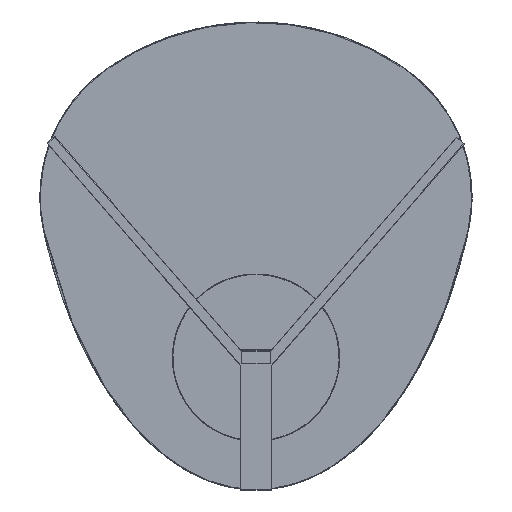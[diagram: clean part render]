
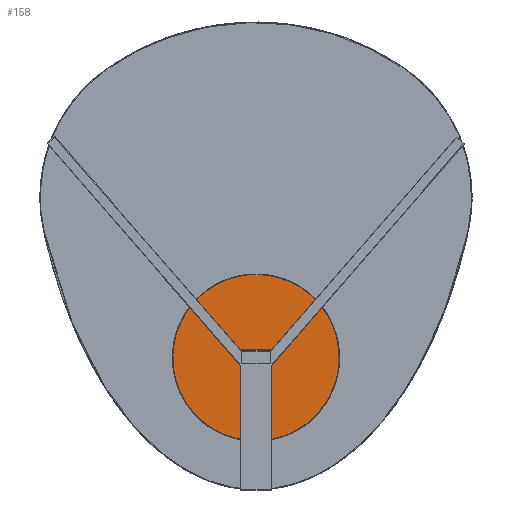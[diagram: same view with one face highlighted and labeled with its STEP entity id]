
A CAD part, front view. The second image highlights one B-rep face of the part: STEP entity #158.
In plain terms, the highlighted planar face has unit normal (0, -1, 0).
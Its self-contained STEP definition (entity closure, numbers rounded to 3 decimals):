
#158=ADVANCED_FACE('',(#284),#1715,.T.);
#284=FACE_OUTER_BOUND('',#411,.T.);
#411=EDGE_LOOP('',(#910,#911));
#910=ORIENTED_EDGE('',*,*,#1216,.F.);
#911=ORIENTED_EDGE('',*,*,#1225,.F.);
#1216=EDGE_CURVE('',#1670,#1671,#1502,.T.);
#1225=EDGE_CURVE('',#1671,#1670,#1509,.T.);
#1502=(
BOUNDED_CURVE()
B_SPLINE_CURVE(2,(#5955,#5956,#5957,#5958,#5959),.UNSPECIFIED.,.F.,.F.)
B_SPLINE_CURVE_WITH_KNOTS((3,2,3),(-249.757,-124.878,
0.),.UNSPECIFIED.)
CURVE()
GEOMETRIC_REPRESENTATION_ITEM()
RATIONAL_B_SPLINE_CURVE((1.,0.707,1.,0.707,1.))
REPRESENTATION_ITEM('')
);
#1509=(
BOUNDED_CURVE()
B_SPLINE_CURVE(2,(#5990,#5991,#5992,#5993,#5994),.UNSPECIFIED.,.F.,.F.)
B_SPLINE_CURVE_WITH_KNOTS((3,2,3),(-249.757,-124.878,
0.),.UNSPECIFIED.)
CURVE()
GEOMETRIC_REPRESENTATION_ITEM()
RATIONAL_B_SPLINE_CURVE((1.,0.707,1.,0.707,1.))
REPRESENTATION_ITEM('')
);
#1670=VERTEX_POINT('',#5949);
#1671=VERTEX_POINT('',#5950);
#1715=PLANE('',#1861);
#1861=AXIS2_PLACEMENT_3D('',#5866,#1892,$);
#1892=DIRECTION('',(0.,-1.,0.));
#5866=CARTESIAN_POINT('',(-95.401,-8.,-168.806));
#5949=CARTESIAN_POINT('',(0.,-8.,6.095));
#5950=CARTESIAN_POINT('',(0.,-8.,-152.905));
#5955=CARTESIAN_POINT('',(0.,-8.,6.095));
#5956=CARTESIAN_POINT('',(79.5,-8.,6.095));
#5957=CARTESIAN_POINT('',(79.5,-8.,-73.405));
#5958=CARTESIAN_POINT('',(79.5,-8.,-152.905));
#5959=CARTESIAN_POINT('',(0.,-8.,-152.905));
#5990=CARTESIAN_POINT('',(0.,-8.,-152.905));
#5991=CARTESIAN_POINT('',(-79.5,-8.,-152.905));
#5992=CARTESIAN_POINT('',(-79.5,-8.,-73.405));
#5993=CARTESIAN_POINT('',(-79.5,-8.,6.095));
#5994=CARTESIAN_POINT('',(0.,-8.,6.095));
